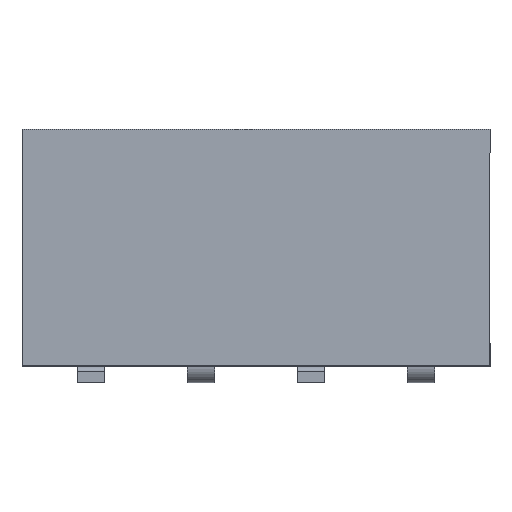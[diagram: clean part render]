
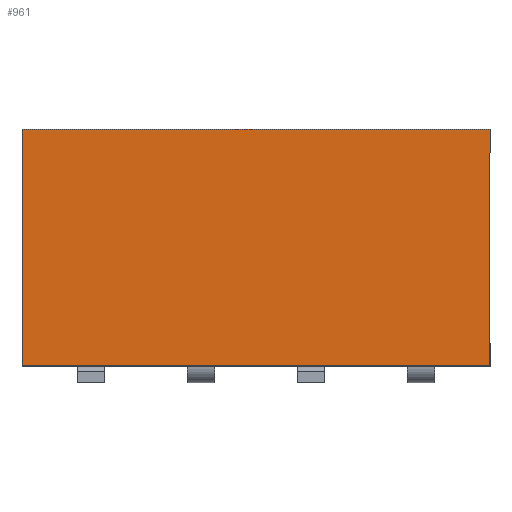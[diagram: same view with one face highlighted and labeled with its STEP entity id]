
A CAD part, top view. The second image highlights one B-rep face of the part: STEP entity #961.
In plain terms, the highlighted planar face has unit normal (0, 0, 1).
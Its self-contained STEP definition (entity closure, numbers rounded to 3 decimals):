
#16 = EDGE_CURVE ( 'NONE', #2380, #450, #995, .T. ) ;
#18 = LINE ( 'NONE', #981, #726 ) ;
#57 = CARTESIAN_POINT ( 'NONE',  ( 6.418, 1.236, 1. ) ) ;
#121 = VERTEX_POINT ( 'NONE', #1269 ) ;
#198 = VECTOR ( 'NONE', #324, 1000. ) ;
#294 = ORIENTED_EDGE ( 'NONE', *, *, #845, .T. ) ;
#324 = DIRECTION ( 'NONE',  ( -1., 0., 0. ) ) ;
#410 = EDGE_CURVE ( 'NONE', #2380, #121, #2180, .T. ) ;
#450 = VERTEX_POINT ( 'NONE', #1277 ) ;
#504 = EDGE_CURVE ( 'NONE', #928, #450, #1891, .T. ) ;
#584 = DIRECTION ( 'NONE',  ( 0., 0., 1. ) ) ;
#726 = VECTOR ( 'NONE', #809, 1000. ) ;
#809 = DIRECTION ( 'NONE',  ( 0., -1., 0. ) ) ;
#845 = EDGE_CURVE ( 'NONE', #121, #928, #18, .T. ) ;
#928 = VERTEX_POINT ( 'NONE', #2130 ) ;
#961 = ADVANCED_FACE ( 'NONE', ( #1526 ), #1360, .T. ) ;
#981 = CARTESIAN_POINT ( 'NONE',  ( -2.082, 1.236, 1. ) ) ;
#995 = LINE ( 'NONE', #1361, #2193 ) ;
#1232 = ORIENTED_EDGE ( 'NONE', *, *, #16, .F. ) ;
#1269 = CARTESIAN_POINT ( 'NONE',  ( -2.082, 1.236, 1. ) ) ;
#1277 = CARTESIAN_POINT ( 'NONE',  ( 6.418, -3.064, 1. ) ) ;
#1343 = DIRECTION ( 'NONE',  ( 1., 0., 0. ) ) ;
#1350 = DIRECTION ( 'NONE',  ( 1., 0., 0. ) ) ;
#1360 = PLANE ( 'NONE',  #1680 ) ;
#1361 = CARTESIAN_POINT ( 'NONE',  ( 6.418, 1.236, 1. ) ) ;
#1526 = FACE_OUTER_BOUND ( 'NONE', #1591, .T. ) ;
#1591 = EDGE_LOOP ( 'NONE', ( #2056, #1232, #2143, #294 ) ) ;
#1680 = AXIS2_PLACEMENT_3D ( 'NONE', #2277, #584, #1350 ) ;
#1715 = CARTESIAN_POINT ( 'NONE',  ( -2.082, -3.064, 1. ) ) ;
#1816 = VECTOR ( 'NONE', #1343, 1000. ) ;
#1891 = LINE ( 'NONE', #1715, #1816 ) ;
#2056 = ORIENTED_EDGE ( 'NONE', *, *, #504, .T. ) ;
#2103 = DIRECTION ( 'NONE',  ( 0., -1., 0. ) ) ;
#2130 = CARTESIAN_POINT ( 'NONE',  ( -2.082, -3.064, 1. ) ) ;
#2143 = ORIENTED_EDGE ( 'NONE', *, *, #410, .T. ) ;
#2180 = LINE ( 'NONE', #2236, #198 ) ;
#2193 = VECTOR ( 'NONE', #2103, 1000. ) ;
#2236 = CARTESIAN_POINT ( 'NONE',  ( -2.082, 1.236, 1. ) ) ;
#2277 = CARTESIAN_POINT ( 'NONE',  ( 0., -2.05, 1. ) ) ;
#2380 = VERTEX_POINT ( 'NONE', #57 ) ;
